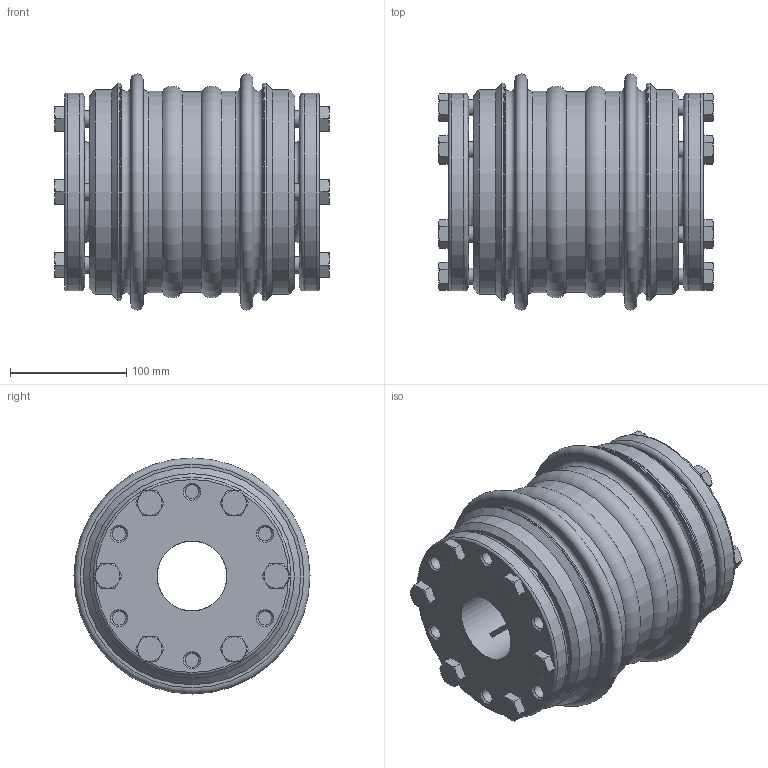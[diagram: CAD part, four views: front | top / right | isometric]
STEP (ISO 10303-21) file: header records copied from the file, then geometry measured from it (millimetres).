
FILE_DESCRIPTION(/* description */ ('Unknown','CAx-IF Rec.Pracs.---Representation and Presentation of Product Manufacturing Information (PMI)---4.0---2014-10-13','CAx-IF Rec.Pracs.---3D Tessellated Geometry---0.4---2014-09-14','2;1'),/* implementation_level */ '2;1');
FILE_NAME(/* name */ 'MB-00224757',/* time_stamp */ '2023-12-13T08:35:31+01:00',/* author */ ('Unknown'),/* organization */ ('Unknown'),/* preprocessor_version */ 'ST-DEVELOPER v18.102',/* originating_system */ 'Solid Edge',/* authorisation */ 'Unknown');
FILE_SCHEMA (('AP242_MANAGED_MODEL_BASED_3D_ENGINEERING_MIM_LF { 1 0 10303 442 1 1 4 }'));
Length unit declared in the file: millimetre
Products named in the file (1): MB-00224757
Bounding box: 236.37 x 203 x 203 mm (x, y, z)
Volume: 2629599 mm3; surface area: 518205.6 mm2
Topology: 1 solids, 13 shells, 460 faces, 1107 edges, 697 vertices
Faces by surface type: plane 170, cone 132, cylinder 98, torus 60
Full cylindrical faces by diameter (mm): 11.835 x24, 14 x24, 14.5 x12, 19.37 x12, 60 x2, 168 x2, 170 x2, 170.407 x1, 171 x2, 172.607 x1, 173.2 x2, 176 x2, 186.5 x2, 187 x2
Entity records: 14996 total; most frequent: CARTESIAN_POINT 2562, DIRECTION 1948, ORIENTED_EDGE 1600, AXIS2_PLACEMENT_3D 862, EDGE_CURVE 800, FACE_BOUND 772, EDGE_LOOP 760, VERTEX_POINT 612
